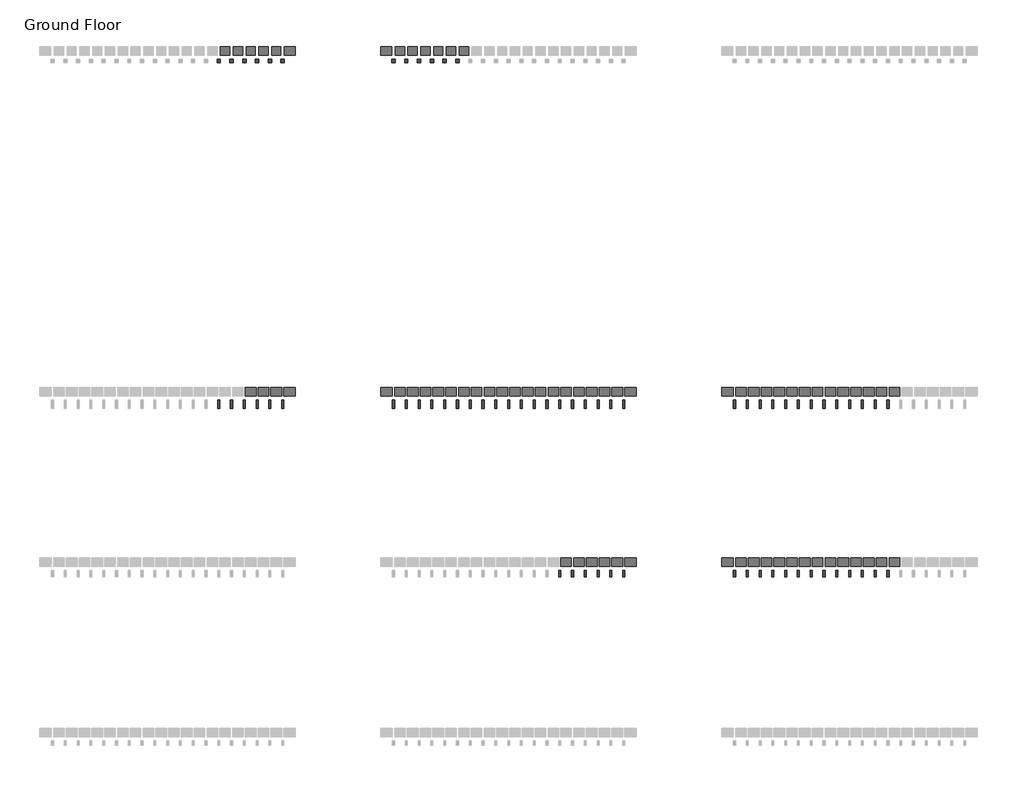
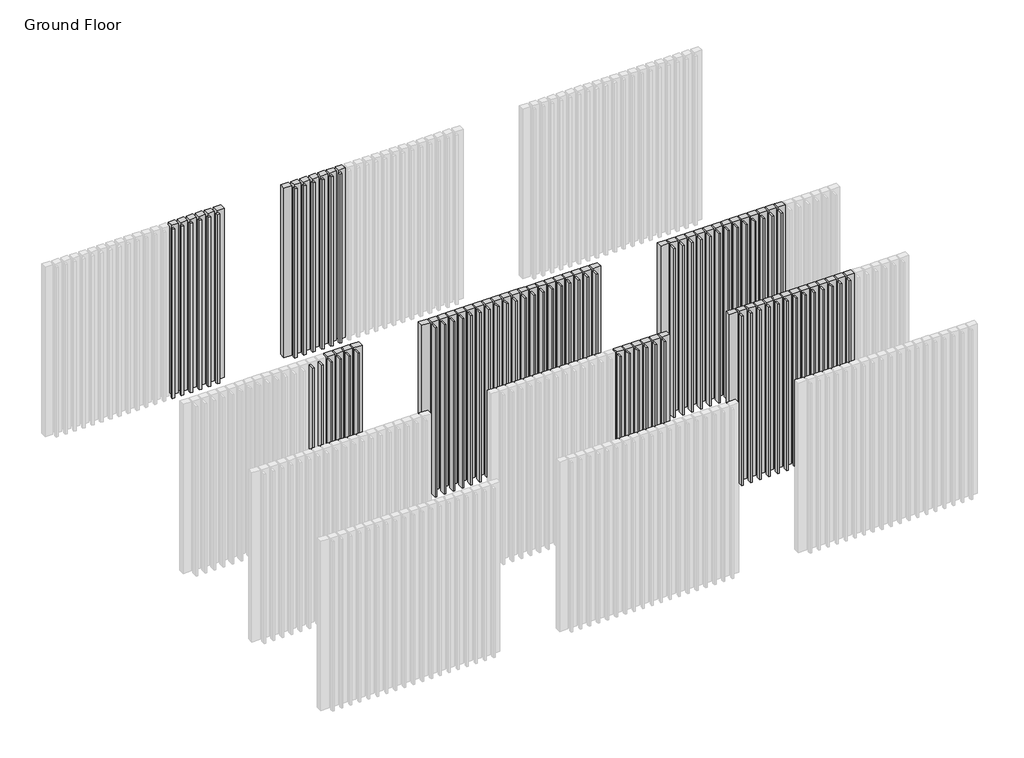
# One storey, part 9 of 350: 71 plates, 69 members.
"""IFC4 building model written with IfcOpenShell, lengths in millimetres."""

from ifc_helpers import new_model, si_unit, origin, place, context, project, spatial, transform, mapped, element, save
from components import rectangular_mullion_e8802490, rectangular_mullion_b3f0cc74, rectangular_mullion_5b385907, empty_system_panel_empty_db8e642d, empty_system_panel_empty_1b6afc67, empty_system_panel_empty_4d48d162, empty_system_panel_empty_b664eb17, empty_system_panel_empty_6da6c4cd, empty_system_panel_empty_b9c1531e

model = new_model("IFC4")

# Units and contexts
model_context = context("Model", 3, world=origin())
ifc_project = project(units=[si_unit("LENGTHUNIT", "METRE", prefix="MILLI")], contexts=[model_context])

# Site, building, storey
site = spatial("IfcSite", under=ifc_project)
building = spatial("IfcBuilding", under=site)
storey = spatial("IfcBuildingStorey", under=building, Name="Ground Floor", Elevation=0.0)

# Members
placement = place(None, origin())
rectangular_mullion_shape = rectangular_mullion_e8802490(model_context)
element("IfcMember", 1, ObjectType="Rectangular Mullion : Batten_Aluminium_Modinex_AluBatten_25x100_SpottedGum", at=placement, inside=storey, context=model_context, shape_type="MappedRepresentation", body=[
    mapped(rectangular_mullion_shape, transform((16016.4361642, 10968.2978302, 0.0), x_axis=(1.0, 0.0, 0.0), y_axis=(0.0, -1.0, 0.0), z_axis=(0.0, 0.0, -1.0))),
])
element("IfcMember", 2, ObjectType="Rectangular Mullion : Batten_Aluminium_Modinex_AluBatten_25x100_SpottedGum", at=placement, inside=storey, context=model_context, shape_type="MappedRepresentation", body=[
    mapped(rectangular_mullion_shape, transform((16166.4361642, 10968.2978302, 0.0), x_axis=(1.0, 0.0, 0.0), y_axis=(0.0, -1.0, 0.0), z_axis=(0.0, 0.0, -1.0))),
])
element("IfcMember", 3, ObjectType="Rectangular Mullion : Batten_Aluminium_Modinex_AluBatten_25x100_SpottedGum", at=placement, inside=storey, context=model_context, shape_type="MappedRepresentation", body=[
    mapped(rectangular_mullion_shape, transform((16316.4361642, 10968.2978302, 0.0), x_axis=(1.0, 0.0, 0.0), y_axis=(0.0, -1.0, 0.0), z_axis=(0.0, 0.0, -1.0))),
])
element("IfcMember", 4, ObjectType="Rectangular Mullion : Batten_Aluminium_Modinex_AluBatten_25x100_SpottedGum", at=placement, inside=storey, context=model_context, shape_type="MappedRepresentation", body=[
    mapped(rectangular_mullion_shape, transform((16466.4361642, 10968.2978302, 0.0), x_axis=(1.0, 0.0, 0.0), y_axis=(0.0, -1.0, 0.0), z_axis=(0.0, 0.0, -1.0))),
])
element("IfcMember", 5, ObjectType="Rectangular Mullion : Batten_Aluminium_Modinex_AluBatten_25x100_SpottedGum", at=placement, inside=storey, context=model_context, shape_type="MappedRepresentation", body=[
    mapped(rectangular_mullion_shape, transform((16616.4361642, 10968.2978302, 0.0), x_axis=(1.0, 0.0, 0.0), y_axis=(0.0, -1.0, 0.0), z_axis=(0.0, 0.0, -1.0))),
])
element("IfcMember", 6, ObjectType="Rectangular Mullion : Batten_Aluminium_Modinex_AluBatten_25x100_SpottedGum", at=placement, inside=storey, context=model_context, shape_type="MappedRepresentation", body=[
    mapped(rectangular_mullion_shape, transform((16766.4361642, 10968.2978302, 0.0), x_axis=(1.0, 0.0, 0.0), y_axis=(0.0, -1.0, 0.0), z_axis=(0.0, 0.0, -1.0))),
])
rectangular_mullion_2_shape = rectangular_mullion_b3f0cc74(model_context)
element("IfcMember", 7, ObjectType="Rectangular Mullion : Batten_Aluminium_Modinex_AluBatten_25x75_TasmanianOak", at=placement, inside=storey, context=model_context, shape_type="MappedRepresentation", body=[
    mapped(rectangular_mullion_2_shape, transform((20016.4361642, 8968.2978302, 0.0), x_axis=(1.0, 0.0, 0.0), y_axis=(0.0, -1.0, 0.0), z_axis=(0.0, 0.0, -1.0))),
])
element("IfcMember", 8, ObjectType="Rectangular Mullion : Batten_Aluminium_Modinex_AluBatten_25x75_TasmanianOak", at=placement, inside=storey, context=model_context, shape_type="MappedRepresentation", body=[
    mapped(rectangular_mullion_2_shape, transform((20166.4361642, 8968.2978302, 0.0), x_axis=(1.0, 0.0, 0.0), y_axis=(0.0, -1.0, 0.0), z_axis=(0.0, 0.0, -1.0))),
])
element("IfcMember", 9, ObjectType="Rectangular Mullion : Batten_Aluminium_Modinex_AluBatten_25x75_TasmanianOak", at=placement, inside=storey, context=model_context, shape_type="MappedRepresentation", body=[
    mapped(rectangular_mullion_2_shape, transform((20316.4361642, 8968.2978302, 0.0), x_axis=(1.0, 0.0, 0.0), y_axis=(0.0, -1.0, 0.0), z_axis=(0.0, 0.0, -1.0))),
])
element("IfcMember", 10, ObjectType="Rectangular Mullion : Batten_Aluminium_Modinex_AluBatten_25x75_TasmanianOak", at=placement, inside=storey, context=model_context, shape_type="MappedRepresentation", body=[
    mapped(rectangular_mullion_2_shape, transform((20466.4361642, 8968.2978302, 0.0), x_axis=(1.0, 0.0, 0.0), y_axis=(0.0, -1.0, 0.0), z_axis=(0.0, 0.0, -1.0))),
])
element("IfcMember", 11, ObjectType="Rectangular Mullion : Batten_Aluminium_Modinex_AluBatten_25x75_TasmanianOak", at=placement, inside=storey, context=model_context, shape_type="MappedRepresentation", body=[
    mapped(rectangular_mullion_2_shape, transform((20616.4361642, 8968.2978302, 0.0), x_axis=(1.0, 0.0, 0.0), y_axis=(0.0, -1.0, 0.0), z_axis=(0.0, 0.0, -1.0))),
])
element("IfcMember", 12, ObjectType="Rectangular Mullion : Batten_Aluminium_Modinex_AluBatten_25x75_TasmanianOak", at=placement, inside=storey, context=model_context, shape_type="MappedRepresentation", body=[
    mapped(rectangular_mullion_2_shape, transform((20766.4361642, 8968.2978302, 0.0), x_axis=(1.0, 0.0, 0.0), y_axis=(0.0, -1.0, 0.0), z_axis=(0.0, 0.0, -1.0))),
])
element("IfcMember", 13, ObjectType="Rectangular Mullion : Batten_Aluminium_Modinex_AluBatten_25x100_TasmanianOak", at=placement, inside=storey, context=model_context, shape_type="MappedRepresentation", body=[
    mapped(rectangular_mullion_shape, transform((18066.4361642, 10968.2978302, 0.0), x_axis=(1.0, 0.0, 0.0), y_axis=(0.0, -1.0, 0.0), z_axis=(0.0, 0.0, -1.0))),
])
element("IfcMember", 14, ObjectType="Rectangular Mullion : Batten_Aluminium_Modinex_AluBatten_25x100_TasmanianOak", at=placement, inside=storey, context=model_context, shape_type="MappedRepresentation", body=[
    mapped(rectangular_mullion_shape, transform((18216.4361642, 10968.2978302, 0.0), x_axis=(1.0, 0.0, 0.0), y_axis=(0.0, -1.0, 0.0), z_axis=(0.0, 0.0, -1.0))),
])
element("IfcMember", 15, ObjectType="Rectangular Mullion : Batten_Aluminium_Modinex_AluBatten_25x100_TasmanianOak", at=placement, inside=storey, context=model_context, shape_type="MappedRepresentation", body=[
    mapped(rectangular_mullion_shape, transform((18366.4361642, 10968.2978302, 0.0), x_axis=(1.0, 0.0, 0.0), y_axis=(0.0, -1.0, 0.0), z_axis=(0.0, 0.0, -1.0))),
])
element("IfcMember", 16, ObjectType="Rectangular Mullion : Batten_Aluminium_Modinex_AluBatten_25x100_TasmanianOak", at=placement, inside=storey, context=model_context, shape_type="MappedRepresentation", body=[
    mapped(rectangular_mullion_shape, transform((18516.4361642, 10968.2978302, 0.0), x_axis=(1.0, 0.0, 0.0), y_axis=(0.0, -1.0, 0.0), z_axis=(0.0, 0.0, -1.0))),
])
element("IfcMember", 17, ObjectType="Rectangular Mullion : Batten_Aluminium_Modinex_AluBatten_25x100_TasmanianOak", at=placement, inside=storey, context=model_context, shape_type="MappedRepresentation", body=[
    mapped(rectangular_mullion_shape, transform((18666.4361642, 10968.2978302, 0.0), x_axis=(1.0, 0.0, 0.0), y_axis=(0.0, -1.0, 0.0), z_axis=(0.0, 0.0, -1.0))),
])
element("IfcMember", 18, ObjectType="Rectangular Mullion : Batten_Aluminium_Modinex_AluBatten_25x100_TasmanianOak", at=placement, inside=storey, context=model_context, shape_type="MappedRepresentation", body=[
    mapped(rectangular_mullion_shape, transform((18816.4361642, 10968.2978302, 0.0), x_axis=(1.0, 0.0, 0.0), y_axis=(0.0, -1.0, 0.0), z_axis=(0.0, 0.0, -1.0))),
])
element("IfcMember", 19, ObjectType="Rectangular Mullion : Batten_Aluminium_Modinex_AluBatten_25x100_TasmanianOak", at=placement, inside=storey, context=model_context, shape_type="MappedRepresentation", body=[
    mapped(rectangular_mullion_shape, transform((18966.4361642, 10968.2978302, 0.0), x_axis=(1.0, 0.0, 0.0), y_axis=(0.0, -1.0, 0.0), z_axis=(0.0, 0.0, -1.0))),
])
element("IfcMember", 20, ObjectType="Rectangular Mullion : Batten_Aluminium_Modinex_AluBatten_25x100_TasmanianOak", at=placement, inside=storey, context=model_context, shape_type="MappedRepresentation", body=[
    mapped(rectangular_mullion_shape, transform((19116.4361642, 10968.2978302, 0.0), x_axis=(1.0, 0.0, 0.0), y_axis=(0.0, -1.0, 0.0), z_axis=(0.0, 0.0, -1.0))),
])
element("IfcMember", 21, ObjectType="Rectangular Mullion : Batten_Aluminium_Modinex_AluBatten_25x100_TasmanianOak", at=placement, inside=storey, context=model_context, shape_type="MappedRepresentation", body=[
    mapped(rectangular_mullion_shape, transform((19266.4361642, 10968.2978302, 0.0), x_axis=(1.0, 0.0, 0.0), y_axis=(0.0, -1.0, 0.0), z_axis=(0.0, 0.0, -1.0))),
])
element("IfcMember", 22, ObjectType="Rectangular Mullion : Batten_Aluminium_Modinex_AluBatten_25x100_TasmanianOak", at=placement, inside=storey, context=model_context, shape_type="MappedRepresentation", body=[
    mapped(rectangular_mullion_shape, transform((19416.4361642, 10968.2978302, 0.0), x_axis=(1.0, 0.0, 0.0), y_axis=(0.0, -1.0, 0.0), z_axis=(0.0, 0.0, -1.0))),
])
element("IfcMember", 23, ObjectType="Rectangular Mullion : Batten_Aluminium_Modinex_AluBatten_25x100_TasmanianOak", at=placement, inside=storey, context=model_context, shape_type="MappedRepresentation", body=[
    mapped(rectangular_mullion_shape, transform((19566.4361642, 10968.2978302, 0.0), x_axis=(1.0, 0.0, 0.0), y_axis=(0.0, -1.0, 0.0), z_axis=(0.0, 0.0, -1.0))),
])
element("IfcMember", 24, ObjectType="Rectangular Mullion : Batten_Aluminium_Modinex_AluBatten_25x100_TasmanianOak", at=placement, inside=storey, context=model_context, shape_type="MappedRepresentation", body=[
    mapped(rectangular_mullion_shape, transform((19716.4361642, 10968.2978302, 0.0), x_axis=(1.0, 0.0, 0.0), y_axis=(0.0, -1.0, 0.0), z_axis=(0.0, 0.0, -1.0))),
])
element("IfcMember", 25, ObjectType="Rectangular Mullion : Batten_Aluminium_Modinex_AluBatten_25x100_TasmanianOak", at=placement, inside=storey, context=model_context, shape_type="MappedRepresentation", body=[
    mapped(rectangular_mullion_shape, transform((19866.4361642, 10968.2978302, 0.0), x_axis=(1.0, 0.0, 0.0), y_axis=(0.0, -1.0, 0.0), z_axis=(0.0, 0.0, -1.0))),
])
element("IfcMember", 26, ObjectType="Rectangular Mullion : Batten_Aluminium_Modinex_AluBatten_25x100_TasmanianOak", at=placement, inside=storey, context=model_context, shape_type="MappedRepresentation", body=[
    mapped(rectangular_mullion_shape, transform((20016.4361642, 10968.2978302, 0.0), x_axis=(1.0, 0.0, 0.0), y_axis=(0.0, -1.0, 0.0), z_axis=(0.0, 0.0, -1.0))),
])
element("IfcMember", 27, ObjectType="Rectangular Mullion : Batten_Aluminium_Modinex_AluBatten_25x100_TasmanianOak", at=placement, inside=storey, context=model_context, shape_type="MappedRepresentation", body=[
    mapped(rectangular_mullion_shape, transform((20166.4361642, 10968.2978302, 0.0), x_axis=(1.0, 0.0, 0.0), y_axis=(0.0, -1.0, 0.0), z_axis=(0.0, 0.0, -1.0))),
])
element("IfcMember", 28, ObjectType="Rectangular Mullion : Batten_Aluminium_Modinex_AluBatten_25x100_TasmanianOak", at=placement, inside=storey, context=model_context, shape_type="MappedRepresentation", body=[
    mapped(rectangular_mullion_shape, transform((20316.4361642, 10968.2978302, 0.0), x_axis=(1.0, 0.0, 0.0), y_axis=(0.0, -1.0, 0.0), z_axis=(0.0, 0.0, -1.0))),
])
element("IfcMember", 29, ObjectType="Rectangular Mullion : Batten_Aluminium_Modinex_AluBatten_25x100_TasmanianOak", at=placement, inside=storey, context=model_context, shape_type="MappedRepresentation", body=[
    mapped(rectangular_mullion_shape, transform((20466.4361642, 10968.2978302, 0.0), x_axis=(1.0, 0.0, 0.0), y_axis=(0.0, -1.0, 0.0), z_axis=(0.0, 0.0, -1.0))),
])
element("IfcMember", 30, ObjectType="Rectangular Mullion : Batten_Aluminium_Modinex_AluBatten_25x100_TasmanianOak", at=placement, inside=storey, context=model_context, shape_type="MappedRepresentation", body=[
    mapped(rectangular_mullion_shape, transform((20616.4361642, 10968.2978302, 0.0), x_axis=(1.0, 0.0, 0.0), y_axis=(0.0, -1.0, 0.0), z_axis=(0.0, 0.0, -1.0))),
])
element("IfcMember", 31, ObjectType="Rectangular Mullion : Batten_Aluminium_Modinex_AluBatten_25x100_TasmanianOak", at=placement, inside=storey, context=model_context, shape_type="MappedRepresentation", body=[
    mapped(rectangular_mullion_shape, transform((20766.4361642, 10968.2978302, 0.0), x_axis=(1.0, 0.0, 0.0), y_axis=(0.0, -1.0, 0.0), z_axis=(0.0, 0.0, -1.0))),
])
rectangular_mullion_3_shape = rectangular_mullion_5b385907(model_context)
element("IfcMember", 32, ObjectType="Rectangular Mullion : Batten_Aluminium_Modinex_AluBatten_40x40_SpottedGum", at=placement, inside=storey, context=model_context, shape_type="MappedRepresentation", body=[
    mapped(rectangular_mullion_3_shape, transform((16016.4361642, 14968.2978302, 0.0), x_axis=(1.0, 0.0, 0.0), y_axis=(0.0, -1.0, 0.0), z_axis=(0.0, 0.0, -1.0))),
])
element("IfcMember", 33, ObjectType="Rectangular Mullion : Batten_Aluminium_Modinex_AluBatten_40x40_SpottedGum", at=placement, inside=storey, context=model_context, shape_type="MappedRepresentation", body=[
    mapped(rectangular_mullion_3_shape, transform((16166.4361642, 14968.2978302, 0.0), x_axis=(1.0, 0.0, 0.0), y_axis=(0.0, -1.0, 0.0), z_axis=(0.0, 0.0, -1.0))),
])
element("IfcMember", 34, ObjectType="Rectangular Mullion : Batten_Aluminium_Modinex_AluBatten_40x40_SpottedGum", at=placement, inside=storey, context=model_context, shape_type="MappedRepresentation", body=[
    mapped(rectangular_mullion_3_shape, transform((16316.4361642, 14968.2978302, 0.0), x_axis=(1.0, 0.0, 0.0), y_axis=(0.0, -1.0, 0.0), z_axis=(0.0, 0.0, -1.0))),
])
element("IfcMember", 35, ObjectType="Rectangular Mullion : Batten_Aluminium_Modinex_AluBatten_40x40_SpottedGum", at=placement, inside=storey, context=model_context, shape_type="MappedRepresentation", body=[
    mapped(rectangular_mullion_3_shape, transform((16466.4361642, 14968.2978302, 0.0), x_axis=(1.0, 0.0, 0.0), y_axis=(0.0, -1.0, 0.0), z_axis=(0.0, 0.0, -1.0))),
])
element("IfcMember", 36, ObjectType="Rectangular Mullion : Batten_Aluminium_Modinex_AluBatten_40x40_SpottedGum", at=placement, inside=storey, context=model_context, shape_type="MappedRepresentation", body=[
    mapped(rectangular_mullion_3_shape, transform((16616.4361642, 14968.2978302, 0.0), x_axis=(1.0, 0.0, 0.0), y_axis=(0.0, -1.0, 0.0), z_axis=(0.0, 0.0, -1.0))),
])
element("IfcMember", 37, ObjectType="Rectangular Mullion : Batten_Aluminium_Modinex_AluBatten_40x40_SpottedGum", at=placement, inside=storey, context=model_context, shape_type="MappedRepresentation", body=[
    mapped(rectangular_mullion_3_shape, transform((16766.4361642, 14968.2978302, 0.0), x_axis=(1.0, 0.0, 0.0), y_axis=(0.0, -1.0, 0.0), z_axis=(0.0, 0.0, -1.0))),
])
element("IfcMember", 38, ObjectType="Rectangular Mullion : Batten_Aluminium_Modinex_AluBatten_40x40_TasmanianOak", at=placement, inside=storey, context=model_context, shape_type="MappedRepresentation", body=[
    mapped(rectangular_mullion_3_shape, transform((18066.4361642, 14968.2978302, 0.0), x_axis=(1.0, 0.0, 0.0), y_axis=(0.0, -1.0, 0.0), z_axis=(0.0, 0.0, -1.0))),
])
element("IfcMember", 39, ObjectType="Rectangular Mullion : Batten_Aluminium_Modinex_AluBatten_40x40_TasmanianOak", at=placement, inside=storey, context=model_context, shape_type="MappedRepresentation", body=[
    mapped(rectangular_mullion_3_shape, transform((18216.4361642, 14968.2978302, 0.0), x_axis=(1.0, 0.0, 0.0), y_axis=(0.0, -1.0, 0.0), z_axis=(0.0, 0.0, -1.0))),
])
element("IfcMember", 40, ObjectType="Rectangular Mullion : Batten_Aluminium_Modinex_AluBatten_40x40_TasmanianOak", at=placement, inside=storey, context=model_context, shape_type="MappedRepresentation", body=[
    mapped(rectangular_mullion_3_shape, transform((18366.4361642, 14968.2978302, 0.0), x_axis=(1.0, 0.0, 0.0), y_axis=(0.0, -1.0, 0.0), z_axis=(0.0, 0.0, -1.0))),
])
element("IfcMember", 41, ObjectType="Rectangular Mullion : Batten_Aluminium_Modinex_AluBatten_40x40_TasmanianOak", at=placement, inside=storey, context=model_context, shape_type="MappedRepresentation", body=[
    mapped(rectangular_mullion_3_shape, transform((18516.4361642, 14968.2978302, 0.0), x_axis=(1.0, 0.0, 0.0), y_axis=(0.0, -1.0, 0.0), z_axis=(0.0, 0.0, -1.0))),
])
element("IfcMember", 42, ObjectType="Rectangular Mullion : Batten_Aluminium_Modinex_AluBatten_40x40_TasmanianOak", at=placement, inside=storey, context=model_context, shape_type="MappedRepresentation", body=[
    mapped(rectangular_mullion_3_shape, transform((18666.4361642, 14968.2978302, 0.0), x_axis=(1.0, 0.0, 0.0), y_axis=(0.0, -1.0, 0.0), z_axis=(0.0, 0.0, -1.0))),
])
element("IfcMember", 43, ObjectType="Rectangular Mullion : Batten_Aluminium_Modinex_AluBatten_40x40_TasmanianOak", at=placement, inside=storey, context=model_context, shape_type="MappedRepresentation", body=[
    mapped(rectangular_mullion_3_shape, transform((18816.4361642, 14968.2978302, 0.0), x_axis=(1.0, 0.0, 0.0), y_axis=(0.0, -1.0, 0.0), z_axis=(0.0, 0.0, -1.0))),
])
element("IfcMember", 44, ObjectType="Rectangular Mullion : Batten_Aluminium_Modinex_AluBatten_25x75_WhiteOak", at=placement, inside=storey, context=model_context, shape_type="MappedRepresentation", body=[
    mapped(rectangular_mullion_2_shape, transform((22066.4361642, 8968.2978302, 0.0), x_axis=(1.0, 0.0, 0.0), y_axis=(0.0, -1.0, 0.0), z_axis=(0.0, 0.0, -1.0))),
])
element("IfcMember", 45, ObjectType="Rectangular Mullion : Batten_Aluminium_Modinex_AluBatten_25x75_WhiteOak", at=placement, inside=storey, context=model_context, shape_type="MappedRepresentation", body=[
    mapped(rectangular_mullion_2_shape, transform((22216.4361642, 8968.2978302, 0.0), x_axis=(1.0, 0.0, 0.0), y_axis=(0.0, -1.0, 0.0), z_axis=(0.0, 0.0, -1.0))),
])
element("IfcMember", 46, ObjectType="Rectangular Mullion : Batten_Aluminium_Modinex_AluBatten_25x75_WhiteOak", at=placement, inside=storey, context=model_context, shape_type="MappedRepresentation", body=[
    mapped(rectangular_mullion_2_shape, transform((22366.4361642, 8968.2978302, 0.0), x_axis=(1.0, 0.0, 0.0), y_axis=(0.0, -1.0, 0.0), z_axis=(0.0, 0.0, -1.0))),
])
element("IfcMember", 47, ObjectType="Rectangular Mullion : Batten_Aluminium_Modinex_AluBatten_25x75_WhiteOak", at=placement, inside=storey, context=model_context, shape_type="MappedRepresentation", body=[
    mapped(rectangular_mullion_2_shape, transform((22516.4361642, 8968.2978302, 0.0), x_axis=(1.0, 0.0, 0.0), y_axis=(0.0, -1.0, 0.0), z_axis=(0.0, 0.0, -1.0))),
])
element("IfcMember", 48, ObjectType="Rectangular Mullion : Batten_Aluminium_Modinex_AluBatten_25x75_WhiteOak", at=placement, inside=storey, context=model_context, shape_type="MappedRepresentation", body=[
    mapped(rectangular_mullion_2_shape, transform((22666.4361642, 8968.2978302, 0.0), x_axis=(1.0, 0.0, 0.0), y_axis=(0.0, -1.0, 0.0), z_axis=(0.0, 0.0, -1.0))),
])
element("IfcMember", 49, ObjectType="Rectangular Mullion : Batten_Aluminium_Modinex_AluBatten_25x75_WhiteOak", at=placement, inside=storey, context=model_context, shape_type="MappedRepresentation", body=[
    mapped(rectangular_mullion_2_shape, transform((22816.4361642, 8968.2978302, 0.0), x_axis=(1.0, 0.0, 0.0), y_axis=(0.0, -1.0, 0.0), z_axis=(0.0, 0.0, -1.0))),
])
element("IfcMember", 50, ObjectType="Rectangular Mullion : Batten_Aluminium_Modinex_AluBatten_25x75_WhiteOak", at=placement, inside=storey, context=model_context, shape_type="MappedRepresentation", body=[
    mapped(rectangular_mullion_2_shape, transform((22966.4361642, 8968.2978302, 0.0), x_axis=(1.0, 0.0, 0.0), y_axis=(0.0, -1.0, 0.0), z_axis=(0.0, 0.0, -1.0))),
])
element("IfcMember", 51, ObjectType="Rectangular Mullion : Batten_Aluminium_Modinex_AluBatten_25x75_WhiteOak", at=placement, inside=storey, context=model_context, shape_type="MappedRepresentation", body=[
    mapped(rectangular_mullion_2_shape, transform((23116.4361642, 8968.2978302, 0.0), x_axis=(1.0, 0.0, 0.0), y_axis=(0.0, -1.0, 0.0), z_axis=(0.0, 0.0, -1.0))),
])
element("IfcMember", 52, ObjectType="Rectangular Mullion : Batten_Aluminium_Modinex_AluBatten_25x75_WhiteOak", at=placement, inside=storey, context=model_context, shape_type="MappedRepresentation", body=[
    mapped(rectangular_mullion_2_shape, transform((23266.4361642, 8968.2978302, 0.0), x_axis=(1.0, 0.0, 0.0), y_axis=(0.0, -1.0, 0.0), z_axis=(0.0, 0.0, -1.0))),
])
element("IfcMember", 53, ObjectType="Rectangular Mullion : Batten_Aluminium_Modinex_AluBatten_25x75_WhiteOak", at=placement, inside=storey, context=model_context, shape_type="MappedRepresentation", body=[
    mapped(rectangular_mullion_2_shape, transform((23416.4361642, 8968.2978302, 0.0), x_axis=(1.0, 0.0, 0.0), y_axis=(0.0, -1.0, 0.0), z_axis=(0.0, 0.0, -1.0))),
])
element("IfcMember", 54, ObjectType="Rectangular Mullion : Batten_Aluminium_Modinex_AluBatten_25x75_WhiteOak", at=placement, inside=storey, context=model_context, shape_type="MappedRepresentation", body=[
    mapped(rectangular_mullion_2_shape, transform((23566.4361642, 8968.2978302, 0.0), x_axis=(1.0, 0.0, 0.0), y_axis=(0.0, -1.0, 0.0), z_axis=(0.0, 0.0, -1.0))),
])
element("IfcMember", 55, ObjectType="Rectangular Mullion : Batten_Aluminium_Modinex_AluBatten_25x75_WhiteOak", at=placement, inside=storey, context=model_context, shape_type="MappedRepresentation", body=[
    mapped(rectangular_mullion_2_shape, transform((23716.4361642, 8968.2978302, 0.0), x_axis=(1.0, 0.0, 0.0), y_axis=(0.0, -1.0, 0.0), z_axis=(0.0, 0.0, -1.0))),
])
element("IfcMember", 56, ObjectType="Rectangular Mullion : Batten_Aluminium_Modinex_AluBatten_25x75_WhiteOak", at=placement, inside=storey, context=model_context, shape_type="MappedRepresentation", body=[
    mapped(rectangular_mullion_2_shape, transform((23866.4361642, 8968.2978302, 0.0), x_axis=(1.0, 0.0, 0.0), y_axis=(0.0, -1.0, 0.0), z_axis=(0.0, 0.0, -1.0))),
])
element("IfcMember", 57, ObjectType="Rectangular Mullion : Batten_Aluminium_Modinex_AluBatten_25x100_WhiteOak", at=placement, inside=storey, context=model_context, shape_type="MappedRepresentation", body=[
    mapped(rectangular_mullion_shape, transform((22066.4361642, 10968.2978302, 0.0), x_axis=(1.0, 0.0, 0.0), y_axis=(0.0, -1.0, 0.0), z_axis=(0.0, 0.0, -1.0))),
])
element("IfcMember", 58, ObjectType="Rectangular Mullion : Batten_Aluminium_Modinex_AluBatten_25x100_WhiteOak", at=placement, inside=storey, context=model_context, shape_type="MappedRepresentation", body=[
    mapped(rectangular_mullion_shape, transform((22216.4361642, 10968.2978302, 0.0), x_axis=(1.0, 0.0, 0.0), y_axis=(0.0, -1.0, 0.0), z_axis=(0.0, 0.0, -1.0))),
])
element("IfcMember", 59, ObjectType="Rectangular Mullion : Batten_Aluminium_Modinex_AluBatten_25x100_WhiteOak", at=placement, inside=storey, context=model_context, shape_type="MappedRepresentation", body=[
    mapped(rectangular_mullion_shape, transform((22366.4361642, 10968.2978302, 0.0), x_axis=(1.0, 0.0, 0.0), y_axis=(0.0, -1.0, 0.0), z_axis=(0.0, 0.0, -1.0))),
])
element("IfcMember", 60, ObjectType="Rectangular Mullion : Batten_Aluminium_Modinex_AluBatten_25x100_WhiteOak", at=placement, inside=storey, context=model_context, shape_type="MappedRepresentation", body=[
    mapped(rectangular_mullion_shape, transform((22516.4361642, 10968.2978302, 0.0), x_axis=(1.0, 0.0, 0.0), y_axis=(0.0, -1.0, 0.0), z_axis=(0.0, 0.0, -1.0))),
])
element("IfcMember", 61, ObjectType="Rectangular Mullion : Batten_Aluminium_Modinex_AluBatten_25x100_WhiteOak", at=placement, inside=storey, context=model_context, shape_type="MappedRepresentation", body=[
    mapped(rectangular_mullion_shape, transform((22666.4361642, 10968.2978302, 0.0), x_axis=(1.0, 0.0, 0.0), y_axis=(0.0, -1.0, 0.0), z_axis=(0.0, 0.0, -1.0))),
])
element("IfcMember", 62, ObjectType="Rectangular Mullion : Batten_Aluminium_Modinex_AluBatten_25x100_WhiteOak", at=placement, inside=storey, context=model_context, shape_type="MappedRepresentation", body=[
    mapped(rectangular_mullion_shape, transform((22816.4361642, 10968.2978302, 0.0), x_axis=(1.0, 0.0, 0.0), y_axis=(0.0, -1.0, 0.0), z_axis=(0.0, 0.0, -1.0))),
])
element("IfcMember", 63, ObjectType="Rectangular Mullion : Batten_Aluminium_Modinex_AluBatten_25x100_WhiteOak", at=placement, inside=storey, context=model_context, shape_type="MappedRepresentation", body=[
    mapped(rectangular_mullion_shape, transform((22966.4361642, 10968.2978302, 0.0), x_axis=(1.0, 0.0, 0.0), y_axis=(0.0, -1.0, 0.0), z_axis=(0.0, 0.0, -1.0))),
])
element("IfcMember", 64, ObjectType="Rectangular Mullion : Batten_Aluminium_Modinex_AluBatten_25x100_WhiteOak", at=placement, inside=storey, context=model_context, shape_type="MappedRepresentation", body=[
    mapped(rectangular_mullion_shape, transform((23116.4361642, 10968.2978302, 0.0), x_axis=(1.0, 0.0, 0.0), y_axis=(0.0, -1.0, 0.0), z_axis=(0.0, 0.0, -1.0))),
])
element("IfcMember", 65, ObjectType="Rectangular Mullion : Batten_Aluminium_Modinex_AluBatten_25x100_WhiteOak", at=placement, inside=storey, context=model_context, shape_type="MappedRepresentation", body=[
    mapped(rectangular_mullion_shape, transform((23266.4361642, 10968.2978302, 0.0), x_axis=(1.0, 0.0, 0.0), y_axis=(0.0, -1.0, 0.0), z_axis=(0.0, 0.0, -1.0))),
])
element("IfcMember", 66, ObjectType="Rectangular Mullion : Batten_Aluminium_Modinex_AluBatten_25x100_WhiteOak", at=placement, inside=storey, context=model_context, shape_type="MappedRepresentation", body=[
    mapped(rectangular_mullion_shape, transform((23416.4361642, 10968.2978302, 0.0), x_axis=(1.0, 0.0, 0.0), y_axis=(0.0, -1.0, 0.0), z_axis=(0.0, 0.0, -1.0))),
])
element("IfcMember", 67, ObjectType="Rectangular Mullion : Batten_Aluminium_Modinex_AluBatten_25x100_WhiteOak", at=placement, inside=storey, context=model_context, shape_type="MappedRepresentation", body=[
    mapped(rectangular_mullion_shape, transform((23566.4361642, 10968.2978302, 0.0), x_axis=(1.0, 0.0, 0.0), y_axis=(0.0, -1.0, 0.0), z_axis=(0.0, 0.0, -1.0))),
])
element("IfcMember", 68, ObjectType="Rectangular Mullion : Batten_Aluminium_Modinex_AluBatten_25x100_WhiteOak", at=placement, inside=storey, context=model_context, shape_type="MappedRepresentation", body=[
    mapped(rectangular_mullion_shape, transform((23716.4361642, 10968.2978302, 0.0), x_axis=(1.0, 0.0, 0.0), y_axis=(0.0, -1.0, 0.0), z_axis=(0.0, 0.0, -1.0))),
])
element("IfcMember", 69, ObjectType="Rectangular Mullion : Batten_Aluminium_Modinex_AluBatten_25x100_WhiteOak", at=placement, inside=storey, context=model_context, shape_type="MappedRepresentation", body=[
    mapped(rectangular_mullion_shape, transform((23866.4361642, 10968.2978302, 0.0), x_axis=(1.0, 0.0, 0.0), y_axis=(0.0, -1.0, 0.0), z_axis=(0.0, 0.0, -1.0))),
])

# Plates
empty_system_panel_empty_shape = empty_system_panel_empty_db8e642d(model_context)
element("IfcPlate", 70, ObjectType="Empty System Panel : Empty", at=placement, inside=storey, context=model_context, shape_type="MappedRepresentation", body=[
    mapped(empty_system_panel_empty_shape, transform((17985.1861641, 10968.2978302, 0.0), x_axis=(1.0, 0.0, 0.0), y_axis=(0.0, 1.0, 0.0), z_axis=(0.0, 0.0, 1.0))),
])
element("IfcPlate", 71, ObjectType="Empty System Panel : Empty", at=placement, inside=storey, context=model_context, shape_type="MappedRepresentation", body=[
    mapped(empty_system_panel_empty_shape, transform((21985.1861641, 8968.2978302, 0.0), x_axis=(1.0, 0.0, 0.0), y_axis=(0.0, 1.0, 0.0), z_axis=(0.0, 0.0, 1.0))),
])
element("IfcPlate", 72, ObjectType="Empty System Panel : Empty", at=placement, inside=storey, context=model_context, shape_type="MappedRepresentation", body=[
    mapped(empty_system_panel_empty_shape, transform((21985.1861641, 10968.2978302, 0.0), x_axis=(1.0, 0.0, 0.0), y_axis=(0.0, 1.0, 0.0), z_axis=(0.0, 0.0, 1.0))),
])
empty_system_panel_empty_2_shape = empty_system_panel_empty_1b6afc67(model_context)
element("IfcPlate", 73, ObjectType="Empty System Panel : Empty", at=placement, inside=storey, context=model_context, shape_type="MappedRepresentation", body=[
    mapped(empty_system_panel_empty_2_shape, transform((20091.4361642, 8968.2978302, 0.0), x_axis=(1.0, 0.0, 0.0), y_axis=(0.0, 1.0, 0.0), z_axis=(0.0, 0.0, 1.0))),
])
element("IfcPlate", 74, ObjectType="Empty System Panel : Empty", at=placement, inside=storey, context=model_context, shape_type="MappedRepresentation", body=[
    mapped(empty_system_panel_empty_2_shape, transform((20241.4361642, 8968.2978302, 0.0), x_axis=(1.0, 0.0, 0.0), y_axis=(0.0, 1.0, 0.0), z_axis=(0.0, 0.0, 1.0))),
])
element("IfcPlate", 75, ObjectType="Empty System Panel : Empty", at=placement, inside=storey, context=model_context, shape_type="MappedRepresentation", body=[
    mapped(empty_system_panel_empty_2_shape, transform((20391.4361642, 8968.2978302, 0.0), x_axis=(1.0, 0.0, 0.0), y_axis=(0.0, 1.0, 0.0), z_axis=(0.0, 0.0, 1.0))),
])
element("IfcPlate", 76, ObjectType="Empty System Panel : Empty", at=placement, inside=storey, context=model_context, shape_type="MappedRepresentation", body=[
    mapped(empty_system_panel_empty_2_shape, transform((20541.4361642, 8968.2978302, 0.0), x_axis=(1.0, 0.0, 0.0), y_axis=(0.0, 1.0, 0.0), z_axis=(0.0, 0.0, 1.0))),
])
element("IfcPlate", 77, ObjectType="Empty System Panel : Empty", at=placement, inside=storey, context=model_context, shape_type="MappedRepresentation", body=[
    mapped(empty_system_panel_empty_2_shape, transform((20691.4361642, 8968.2978302, 0.0), x_axis=(1.0, 0.0, 0.0), y_axis=(0.0, 1.0, 0.0), z_axis=(0.0, 0.0, 1.0))),
])
element("IfcPlate", 78, ObjectType="Empty System Panel : Empty", at=placement, inside=storey, context=model_context, shape_type="MappedRepresentation", body=[
    mapped(empty_system_panel_empty_2_shape, transform((16391.4361642, 10968.2978302, 0.0), x_axis=(1.0, 0.0, 0.0), y_axis=(0.0, 1.0, 0.0), z_axis=(0.0, 0.0, 1.0))),
])
element("IfcPlate", 79, ObjectType="Empty System Panel : Empty", at=placement, inside=storey, context=model_context, shape_type="MappedRepresentation", body=[
    mapped(empty_system_panel_empty_2_shape, transform((16541.4361642, 10968.2978302, 0.0), x_axis=(1.0, 0.0, 0.0), y_axis=(0.0, 1.0, 0.0), z_axis=(0.0, 0.0, 1.0))),
])
element("IfcPlate", 80, ObjectType="Empty System Panel : Empty", at=placement, inside=storey, context=model_context, shape_type="MappedRepresentation", body=[
    mapped(empty_system_panel_empty_2_shape, transform((16691.4361642, 10968.2978302, 0.0), x_axis=(1.0, 0.0, 0.0), y_axis=(0.0, 1.0, 0.0), z_axis=(0.0, 0.0, 1.0))),
])
element("IfcPlate", 81, ObjectType="Empty System Panel : Empty", at=placement, inside=storey, context=model_context, shape_type="MappedRepresentation", body=[
    mapped(empty_system_panel_empty_2_shape, transform((18141.4361642, 10968.2978302, 0.0), x_axis=(1.0, 0.0, 0.0), y_axis=(0.0, 1.0, 0.0), z_axis=(0.0, 0.0, 1.0))),
])
element("IfcPlate", 82, ObjectType="Empty System Panel : Empty", at=placement, inside=storey, context=model_context, shape_type="MappedRepresentation", body=[
    mapped(empty_system_panel_empty_2_shape, transform((18291.4361642, 10968.2978302, 0.0), x_axis=(1.0, 0.0, 0.0), y_axis=(0.0, 1.0, 0.0), z_axis=(0.0, 0.0, 1.0))),
])
element("IfcPlate", 83, ObjectType="Empty System Panel : Empty", at=placement, inside=storey, context=model_context, shape_type="MappedRepresentation", body=[
    mapped(empty_system_panel_empty_2_shape, transform((18441.4361642, 10968.2978302, 0.0), x_axis=(1.0, 0.0, 0.0), y_axis=(0.0, 1.0, 0.0), z_axis=(0.0, 0.0, 1.0))),
])
element("IfcPlate", 84, ObjectType="Empty System Panel : Empty", at=placement, inside=storey, context=model_context, shape_type="MappedRepresentation", body=[
    mapped(empty_system_panel_empty_2_shape, transform((18591.4361642, 10968.2978302, 0.0), x_axis=(1.0, 0.0, 0.0), y_axis=(0.0, 1.0, 0.0), z_axis=(0.0, 0.0, 1.0))),
])
element("IfcPlate", 85, ObjectType="Empty System Panel : Empty", at=placement, inside=storey, context=model_context, shape_type="MappedRepresentation", body=[
    mapped(empty_system_panel_empty_2_shape, transform((18741.4361642, 10968.2978302, 0.0), x_axis=(1.0, 0.0, 0.0), y_axis=(0.0, 1.0, 0.0), z_axis=(0.0, 0.0, 1.0))),
])
element("IfcPlate", 86, ObjectType="Empty System Panel : Empty", at=placement, inside=storey, context=model_context, shape_type="MappedRepresentation", body=[
    mapped(empty_system_panel_empty_2_shape, transform((18891.4361642, 10968.2978302, 0.0), x_axis=(1.0, 0.0, 0.0), y_axis=(0.0, 1.0, 0.0), z_axis=(0.0, 0.0, 1.0))),
])
element("IfcPlate", 87, ObjectType="Empty System Panel : Empty", at=placement, inside=storey, context=model_context, shape_type="MappedRepresentation", body=[
    mapped(empty_system_panel_empty_2_shape, transform((19041.4361642, 10968.2978302, 0.0), x_axis=(1.0, 0.0, 0.0), y_axis=(0.0, 1.0, 0.0), z_axis=(0.0, 0.0, 1.0))),
])
element("IfcPlate", 88, ObjectType="Empty System Panel : Empty", at=placement, inside=storey, context=model_context, shape_type="MappedRepresentation", body=[
    mapped(empty_system_panel_empty_2_shape, transform((19191.4361642, 10968.2978302, 0.0), x_axis=(1.0, 0.0, 0.0), y_axis=(0.0, 1.0, 0.0), z_axis=(0.0, 0.0, 1.0))),
])
element("IfcPlate", 89, ObjectType="Empty System Panel : Empty", at=placement, inside=storey, context=model_context, shape_type="MappedRepresentation", body=[
    mapped(empty_system_panel_empty_2_shape, transform((19341.4361642, 10968.2978302, 0.0), x_axis=(1.0, 0.0, 0.0), y_axis=(0.0, 1.0, 0.0), z_axis=(0.0, 0.0, 1.0))),
])
element("IfcPlate", 90, ObjectType="Empty System Panel : Empty", at=placement, inside=storey, context=model_context, shape_type="MappedRepresentation", body=[
    mapped(empty_system_panel_empty_2_shape, transform((19491.4361642, 10968.2978302, 0.0), x_axis=(1.0, 0.0, 0.0), y_axis=(0.0, 1.0, 0.0), z_axis=(0.0, 0.0, 1.0))),
])
element("IfcPlate", 91, ObjectType="Empty System Panel : Empty", at=placement, inside=storey, context=model_context, shape_type="MappedRepresentation", body=[
    mapped(empty_system_panel_empty_2_shape, transform((19641.4361642, 10968.2978302, 0.0), x_axis=(1.0, 0.0, 0.0), y_axis=(0.0, 1.0, 0.0), z_axis=(0.0, 0.0, 1.0))),
])
element("IfcPlate", 92, ObjectType="Empty System Panel : Empty", at=placement, inside=storey, context=model_context, shape_type="MappedRepresentation", body=[
    mapped(empty_system_panel_empty_2_shape, transform((19791.4361642, 10968.2978302, 0.0), x_axis=(1.0, 0.0, 0.0), y_axis=(0.0, 1.0, 0.0), z_axis=(0.0, 0.0, 1.0))),
])
element("IfcPlate", 93, ObjectType="Empty System Panel : Empty", at=placement, inside=storey, context=model_context, shape_type="MappedRepresentation", body=[
    mapped(empty_system_panel_empty_2_shape, transform((19941.4361642, 10968.2978302, 0.0), x_axis=(1.0, 0.0, 0.0), y_axis=(0.0, 1.0, 0.0), z_axis=(0.0, 0.0, 1.0))),
])
element("IfcPlate", 94, ObjectType="Empty System Panel : Empty", at=placement, inside=storey, context=model_context, shape_type="MappedRepresentation", body=[
    mapped(empty_system_panel_empty_2_shape, transform((20091.4361642, 10968.2978302, 0.0), x_axis=(1.0, 0.0, 0.0), y_axis=(0.0, 1.0, 0.0), z_axis=(0.0, 0.0, 1.0))),
])
element("IfcPlate", 95, ObjectType="Empty System Panel : Empty", at=placement, inside=storey, context=model_context, shape_type="MappedRepresentation", body=[
    mapped(empty_system_panel_empty_2_shape, transform((20241.4361642, 10968.2978302, 0.0), x_axis=(1.0, 0.0, 0.0), y_axis=(0.0, 1.0, 0.0), z_axis=(0.0, 0.0, 1.0))),
])
element("IfcPlate", 96, ObjectType="Empty System Panel : Empty", at=placement, inside=storey, context=model_context, shape_type="MappedRepresentation", body=[
    mapped(empty_system_panel_empty_2_shape, transform((20391.4361642, 10968.2978302, 0.0), x_axis=(1.0, 0.0, 0.0), y_axis=(0.0, 1.0, 0.0), z_axis=(0.0, 0.0, 1.0))),
])
element("IfcPlate", 97, ObjectType="Empty System Panel : Empty", at=placement, inside=storey, context=model_context, shape_type="MappedRepresentation", body=[
    mapped(empty_system_panel_empty_2_shape, transform((20541.4361642, 10968.2978302, 0.0), x_axis=(1.0, 0.0, 0.0), y_axis=(0.0, 1.0, 0.0), z_axis=(0.0, 0.0, 1.0))),
])
element("IfcPlate", 98, ObjectType="Empty System Panel : Empty", at=placement, inside=storey, context=model_context, shape_type="MappedRepresentation", body=[
    mapped(empty_system_panel_empty_2_shape, transform((20691.4361642, 10968.2978302, 0.0), x_axis=(1.0, 0.0, 0.0), y_axis=(0.0, 1.0, 0.0), z_axis=(0.0, 0.0, 1.0))),
])
element("IfcPlate", 99, ObjectType="Empty System Panel : Empty", at=placement, inside=storey, context=model_context, shape_type="MappedRepresentation", body=[
    mapped(empty_system_panel_empty_2_shape, transform((22141.4361642, 8968.2978302, 0.0), x_axis=(1.0, 0.0, 0.0), y_axis=(0.0, 1.0, 0.0), z_axis=(0.0, 0.0, 1.0))),
])
element("IfcPlate", 100, ObjectType="Empty System Panel : Empty", at=placement, inside=storey, context=model_context, shape_type="MappedRepresentation", body=[
    mapped(empty_system_panel_empty_2_shape, transform((22291.4361642, 8968.2978302, 0.0), x_axis=(1.0, 0.0, 0.0), y_axis=(0.0, 1.0, 0.0), z_axis=(0.0, 0.0, 1.0))),
])
element("IfcPlate", 101, ObjectType="Empty System Panel : Empty", at=placement, inside=storey, context=model_context, shape_type="MappedRepresentation", body=[
    mapped(empty_system_panel_empty_2_shape, transform((22441.4361642, 8968.2978302, 0.0), x_axis=(1.0, 0.0, 0.0), y_axis=(0.0, 1.0, 0.0), z_axis=(0.0, 0.0, 1.0))),
])
element("IfcPlate", 102, ObjectType="Empty System Panel : Empty", at=placement, inside=storey, context=model_context, shape_type="MappedRepresentation", body=[
    mapped(empty_system_panel_empty_2_shape, transform((22591.4361642, 8968.2978302, 0.0), x_axis=(1.0, 0.0, 0.0), y_axis=(0.0, 1.0, 0.0), z_axis=(0.0, 0.0, 1.0))),
])
element("IfcPlate", 103, ObjectType="Empty System Panel : Empty", at=placement, inside=storey, context=model_context, shape_type="MappedRepresentation", body=[
    mapped(empty_system_panel_empty_2_shape, transform((22741.4361642, 8968.2978302, 0.0), x_axis=(1.0, 0.0, 0.0), y_axis=(0.0, 1.0, 0.0), z_axis=(0.0, 0.0, 1.0))),
])
element("IfcPlate", 104, ObjectType="Empty System Panel : Empty", at=placement, inside=storey, context=model_context, shape_type="MappedRepresentation", body=[
    mapped(empty_system_panel_empty_2_shape, transform((22891.4361642, 8968.2978302, 0.0), x_axis=(1.0, 0.0, 0.0), y_axis=(0.0, 1.0, 0.0), z_axis=(0.0, 0.0, 1.0))),
])
element("IfcPlate", 105, ObjectType="Empty System Panel : Empty", at=placement, inside=storey, context=model_context, shape_type="MappedRepresentation", body=[
    mapped(empty_system_panel_empty_2_shape, transform((23041.4361642, 8968.2978302, 0.0), x_axis=(1.0, 0.0, 0.0), y_axis=(0.0, 1.0, 0.0), z_axis=(0.0, 0.0, 1.0))),
])
element("IfcPlate", 106, ObjectType="Empty System Panel : Empty", at=placement, inside=storey, context=model_context, shape_type="MappedRepresentation", body=[
    mapped(empty_system_panel_empty_2_shape, transform((23191.4361642, 8968.2978302, 0.0), x_axis=(1.0, 0.0, 0.0), y_axis=(0.0, 1.0, 0.0), z_axis=(0.0, 0.0, 1.0))),
])
element("IfcPlate", 107, ObjectType="Empty System Panel : Empty", at=placement, inside=storey, context=model_context, shape_type="MappedRepresentation", body=[
    mapped(empty_system_panel_empty_2_shape, transform((23341.4361642, 8968.2978302, 0.0), x_axis=(1.0, 0.0, 0.0), y_axis=(0.0, 1.0, 0.0), z_axis=(0.0, 0.0, 1.0))),
])
element("IfcPlate", 108, ObjectType="Empty System Panel : Empty", at=placement, inside=storey, context=model_context, shape_type="MappedRepresentation", body=[
    mapped(empty_system_panel_empty_2_shape, transform((23491.4361642, 8968.2978302, 0.0), x_axis=(1.0, 0.0, 0.0), y_axis=(0.0, 1.0, 0.0), z_axis=(0.0, 0.0, 1.0))),
])
element("IfcPlate", 109, ObjectType="Empty System Panel : Empty", at=placement, inside=storey, context=model_context, shape_type="MappedRepresentation", body=[
    mapped(empty_system_panel_empty_2_shape, transform((23641.4361642, 8968.2978302, 0.0), x_axis=(1.0, 0.0, 0.0), y_axis=(0.0, 1.0, 0.0), z_axis=(0.0, 0.0, 1.0))),
])
element("IfcPlate", 110, ObjectType="Empty System Panel : Empty", at=placement, inside=storey, context=model_context, shape_type="MappedRepresentation", body=[
    mapped(empty_system_panel_empty_2_shape, transform((23791.4361642, 8968.2978302, 0.0), x_axis=(1.0, 0.0, 0.0), y_axis=(0.0, 1.0, 0.0), z_axis=(0.0, 0.0, 1.0))),
])
element("IfcPlate", 111, ObjectType="Empty System Panel : Empty", at=placement, inside=storey, context=model_context, shape_type="MappedRepresentation", body=[
    mapped(empty_system_panel_empty_2_shape, transform((23941.4361642, 8968.2978302, 0.0), x_axis=(1.0, 0.0, 0.0), y_axis=(0.0, 1.0, 0.0), z_axis=(0.0, 0.0, 1.0))),
])
element("IfcPlate", 112, ObjectType="Empty System Panel : Empty", at=placement, inside=storey, context=model_context, shape_type="MappedRepresentation", body=[
    mapped(empty_system_panel_empty_2_shape, transform((22141.4361642, 10968.2978302, 0.0), x_axis=(1.0, 0.0, 0.0), y_axis=(0.0, 1.0, 0.0), z_axis=(0.0, 0.0, 1.0))),
])
element("IfcPlate", 113, ObjectType="Empty System Panel : Empty", at=placement, inside=storey, context=model_context, shape_type="MappedRepresentation", body=[
    mapped(empty_system_panel_empty_2_shape, transform((22291.4361642, 10968.2978302, 0.0), x_axis=(1.0, 0.0, 0.0), y_axis=(0.0, 1.0, 0.0), z_axis=(0.0, 0.0, 1.0))),
])
element("IfcPlate", 114, ObjectType="Empty System Panel : Empty", at=placement, inside=storey, context=model_context, shape_type="MappedRepresentation", body=[
    mapped(empty_system_panel_empty_2_shape, transform((22441.4361642, 10968.2978302, 0.0), x_axis=(1.0, 0.0, 0.0), y_axis=(0.0, 1.0, 0.0), z_axis=(0.0, 0.0, 1.0))),
])
element("IfcPlate", 115, ObjectType="Empty System Panel : Empty", at=placement, inside=storey, context=model_context, shape_type="MappedRepresentation", body=[
    mapped(empty_system_panel_empty_2_shape, transform((22591.4361642, 10968.2978302, 0.0), x_axis=(1.0, 0.0, 0.0), y_axis=(0.0, 1.0, 0.0), z_axis=(0.0, 0.0, 1.0))),
])
element("IfcPlate", 116, ObjectType="Empty System Panel : Empty", at=placement, inside=storey, context=model_context, shape_type="MappedRepresentation", body=[
    mapped(empty_system_panel_empty_2_shape, transform((22741.4361642, 10968.2978302, 0.0), x_axis=(1.0, 0.0, 0.0), y_axis=(0.0, 1.0, 0.0), z_axis=(0.0, 0.0, 1.0))),
])
element("IfcPlate", 117, ObjectType="Empty System Panel : Empty", at=placement, inside=storey, context=model_context, shape_type="MappedRepresentation", body=[
    mapped(empty_system_panel_empty_2_shape, transform((22891.4361642, 10968.2978302, 0.0), x_axis=(1.0, 0.0, 0.0), y_axis=(0.0, 1.0, 0.0), z_axis=(0.0, 0.0, 1.0))),
])
element("IfcPlate", 118, ObjectType="Empty System Panel : Empty", at=placement, inside=storey, context=model_context, shape_type="MappedRepresentation", body=[
    mapped(empty_system_panel_empty_2_shape, transform((23041.4361642, 10968.2978302, 0.0), x_axis=(1.0, 0.0, 0.0), y_axis=(0.0, 1.0, 0.0), z_axis=(0.0, 0.0, 1.0))),
])
element("IfcPlate", 119, ObjectType="Empty System Panel : Empty", at=placement, inside=storey, context=model_context, shape_type="MappedRepresentation", body=[
    mapped(empty_system_panel_empty_2_shape, transform((23191.4361642, 10968.2978302, 0.0), x_axis=(1.0, 0.0, 0.0), y_axis=(0.0, 1.0, 0.0), z_axis=(0.0, 0.0, 1.0))),
])
element("IfcPlate", 120, ObjectType="Empty System Panel : Empty", at=placement, inside=storey, context=model_context, shape_type="MappedRepresentation", body=[
    mapped(empty_system_panel_empty_2_shape, transform((23341.4361642, 10968.2978302, 0.0), x_axis=(1.0, 0.0, 0.0), y_axis=(0.0, 1.0, 0.0), z_axis=(0.0, 0.0, 1.0))),
])
element("IfcPlate", 121, ObjectType="Empty System Panel : Empty", at=placement, inside=storey, context=model_context, shape_type="MappedRepresentation", body=[
    mapped(empty_system_panel_empty_2_shape, transform((23491.4361642, 10968.2978302, 0.0), x_axis=(1.0, 0.0, 0.0), y_axis=(0.0, 1.0, 0.0), z_axis=(0.0, 0.0, 1.0))),
])
element("IfcPlate", 122, ObjectType="Empty System Panel : Empty", at=placement, inside=storey, context=model_context, shape_type="MappedRepresentation", body=[
    mapped(empty_system_panel_empty_2_shape, transform((23641.4361642, 10968.2978302, 0.0), x_axis=(1.0, 0.0, 0.0), y_axis=(0.0, 1.0, 0.0), z_axis=(0.0, 0.0, 1.0))),
])
element("IfcPlate", 123, ObjectType="Empty System Panel : Empty", at=placement, inside=storey, context=model_context, shape_type="MappedRepresentation", body=[
    mapped(empty_system_panel_empty_2_shape, transform((23791.4361642, 10968.2978302, 0.0), x_axis=(1.0, 0.0, 0.0), y_axis=(0.0, 1.0, 0.0), z_axis=(0.0, 0.0, 1.0))),
])
element("IfcPlate", 124, ObjectType="Empty System Panel : Empty", at=placement, inside=storey, context=model_context, shape_type="MappedRepresentation", body=[
    mapped(empty_system_panel_empty_2_shape, transform((23941.4361642, 10968.2978302, 0.0), x_axis=(1.0, 0.0, 0.0), y_axis=(0.0, 1.0, 0.0), z_axis=(0.0, 0.0, 1.0))),
])
empty_system_panel_empty_3_shape = empty_system_panel_empty_4d48d162(model_context)
element("IfcPlate", 125, ObjectType="Empty System Panel : Empty", at=placement, inside=storey, context=model_context, shape_type="MappedRepresentation", body=[
    mapped(empty_system_panel_empty_3_shape, transform((20847.6861641, 8968.2978302, 0.0), x_axis=(1.0, 0.0, 0.0), y_axis=(0.0, 1.0, 0.0), z_axis=(0.0, 0.0, 1.0))),
])
element("IfcPlate", 126, ObjectType="Empty System Panel : Empty", at=placement, inside=storey, context=model_context, shape_type="MappedRepresentation", body=[
    mapped(empty_system_panel_empty_3_shape, transform((16847.6861641, 10968.2978302, 0.0), x_axis=(1.0, 0.0, 0.0), y_axis=(0.0, 1.0, 0.0), z_axis=(0.0, 0.0, 1.0))),
])
element("IfcPlate", 127, ObjectType="Empty System Panel : Empty", at=placement, inside=storey, context=model_context, shape_type="MappedRepresentation", body=[
    mapped(empty_system_panel_empty_3_shape, transform((20847.6861641, 10968.2978302, 0.0), x_axis=(1.0, 0.0, 0.0), y_axis=(0.0, 1.0, 0.0), z_axis=(0.0, 0.0, 1.0))),
])
empty_system_panel_empty_4_shape = empty_system_panel_empty_b664eb17(model_context)
element("IfcPlate", 128, ObjectType="Empty System Panel : Empty", at=placement, inside=storey, context=model_context, shape_type="MappedRepresentation", body=[
    mapped(empty_system_panel_empty_4_shape, transform((17981.4361641, 14968.2978302, 0.0), x_axis=(1.0, 0.0, 0.0), y_axis=(0.0, 1.0, 0.0), z_axis=(0.0, 0.0, 1.0))),
])
empty_system_panel_empty_5_shape = empty_system_panel_empty_6da6c4cd(model_context)
element("IfcPlate", 129, ObjectType="Empty System Panel : Empty", at=placement, inside=storey, context=model_context, shape_type="MappedRepresentation", body=[
    mapped(empty_system_panel_empty_5_shape, transform((16091.4361642, 14968.2978302, 0.0), x_axis=(1.0, 0.0, 0.0), y_axis=(0.0, 1.0, 0.0), z_axis=(0.0, 0.0, 1.0))),
])
element("IfcPlate", 130, ObjectType="Empty System Panel : Empty", at=placement, inside=storey, context=model_context, shape_type="MappedRepresentation", body=[
    mapped(empty_system_panel_empty_5_shape, transform((16241.4361642, 14968.2978302, 0.0), x_axis=(1.0, 0.0, 0.0), y_axis=(0.0, 1.0, 0.0), z_axis=(0.0, 0.0, 1.0))),
])
element("IfcPlate", 131, ObjectType="Empty System Panel : Empty", at=placement, inside=storey, context=model_context, shape_type="MappedRepresentation", body=[
    mapped(empty_system_panel_empty_5_shape, transform((16391.4361642, 14968.2978302, 0.0), x_axis=(1.0, 0.0, 0.0), y_axis=(0.0, 1.0, 0.0), z_axis=(0.0, 0.0, 1.0))),
])
element("IfcPlate", 132, ObjectType="Empty System Panel : Empty", at=placement, inside=storey, context=model_context, shape_type="MappedRepresentation", body=[
    mapped(empty_system_panel_empty_5_shape, transform((16541.4361642, 14968.2978302, 0.0), x_axis=(1.0, 0.0, 0.0), y_axis=(0.0, 1.0, 0.0), z_axis=(0.0, 0.0, 1.0))),
])
element("IfcPlate", 133, ObjectType="Empty System Panel : Empty", at=placement, inside=storey, context=model_context, shape_type="MappedRepresentation", body=[
    mapped(empty_system_panel_empty_5_shape, transform((16691.4361642, 14968.2978302, 0.0), x_axis=(1.0, 0.0, 0.0), y_axis=(0.0, 1.0, 0.0), z_axis=(0.0, 0.0, 1.0))),
])
element("IfcPlate", 134, ObjectType="Empty System Panel : Empty", at=placement, inside=storey, context=model_context, shape_type="MappedRepresentation", body=[
    mapped(empty_system_panel_empty_5_shape, transform((18141.4361642, 14968.2978302, 0.0), x_axis=(1.0, 0.0, 0.0), y_axis=(0.0, 1.0, 0.0), z_axis=(0.0, 0.0, 1.0))),
])
element("IfcPlate", 135, ObjectType="Empty System Panel : Empty", at=placement, inside=storey, context=model_context, shape_type="MappedRepresentation", body=[
    mapped(empty_system_panel_empty_5_shape, transform((18291.4361642, 14968.2978302, 0.0), x_axis=(1.0, 0.0, 0.0), y_axis=(0.0, 1.0, 0.0), z_axis=(0.0, 0.0, 1.0))),
])
element("IfcPlate", 136, ObjectType="Empty System Panel : Empty", at=placement, inside=storey, context=model_context, shape_type="MappedRepresentation", body=[
    mapped(empty_system_panel_empty_5_shape, transform((18441.4361642, 14968.2978302, 0.0), x_axis=(1.0, 0.0, 0.0), y_axis=(0.0, 1.0, 0.0), z_axis=(0.0, 0.0, 1.0))),
])
element("IfcPlate", 137, ObjectType="Empty System Panel : Empty", at=placement, inside=storey, context=model_context, shape_type="MappedRepresentation", body=[
    mapped(empty_system_panel_empty_5_shape, transform((18591.4361642, 14968.2978302, 0.0), x_axis=(1.0, 0.0, 0.0), y_axis=(0.0, 1.0, 0.0), z_axis=(0.0, 0.0, 1.0))),
])
element("IfcPlate", 138, ObjectType="Empty System Panel : Empty", at=placement, inside=storey, context=model_context, shape_type="MappedRepresentation", body=[
    mapped(empty_system_panel_empty_5_shape, transform((18741.4361642, 14968.2978302, 0.0), x_axis=(1.0, 0.0, 0.0), y_axis=(0.0, 1.0, 0.0), z_axis=(0.0, 0.0, 1.0))),
])
element("IfcPlate", 139, ObjectType="Empty System Panel : Empty", at=placement, inside=storey, context=model_context, shape_type="MappedRepresentation", body=[
    mapped(empty_system_panel_empty_5_shape, transform((18891.4361642, 14968.2978302, 0.0), x_axis=(1.0, 0.0, 0.0), y_axis=(0.0, 1.0, 0.0), z_axis=(0.0, 0.0, 1.0))),
])
empty_system_panel_empty_6_shape = empty_system_panel_empty_b9c1531e(model_context)
element("IfcPlate", 140, ObjectType="Empty System Panel : Empty", at=placement, inside=storey, context=model_context, shape_type="MappedRepresentation", body=[
    mapped(empty_system_panel_empty_6_shape, transform((16851.4361641, 14968.2978302, 0.0), x_axis=(1.0, 0.0, 0.0), y_axis=(0.0, 1.0, 0.0), z_axis=(0.0, 0.0, 1.0))),
])

save(model, "model.ifc")
